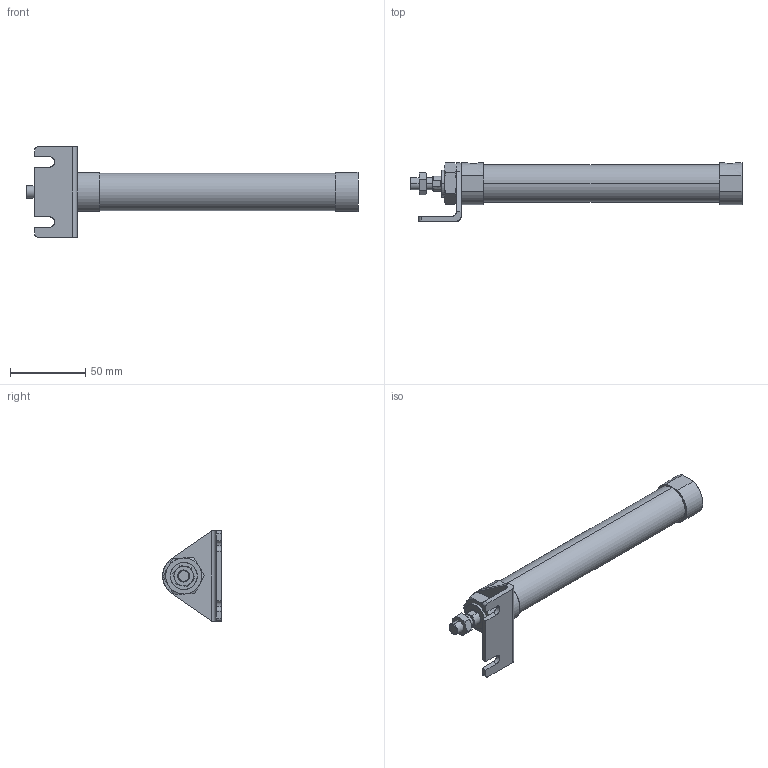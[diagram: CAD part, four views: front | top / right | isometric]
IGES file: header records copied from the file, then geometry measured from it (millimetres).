
Start section: SolidWorks IGES file using analytic representation for surfaces
Global section: file name: C:\Users\Toshiba\Desktop\JGND2-20-125-L.IGS; native system: SolidWorks 2014; preprocessor: SolidWorks 2014; author: Toshiba; date: 160804.103201; units: millimetre
Bounding box: 221 x 39 x 60 mm (x, y, z)
Surface area: 26652.8 mm2 (no closed solid volume)
Topology: 0 solids, 0 shells, 111 faces, 1814 edges, 1814 vertices
Faces by surface type: bspline 73, revolution 38
